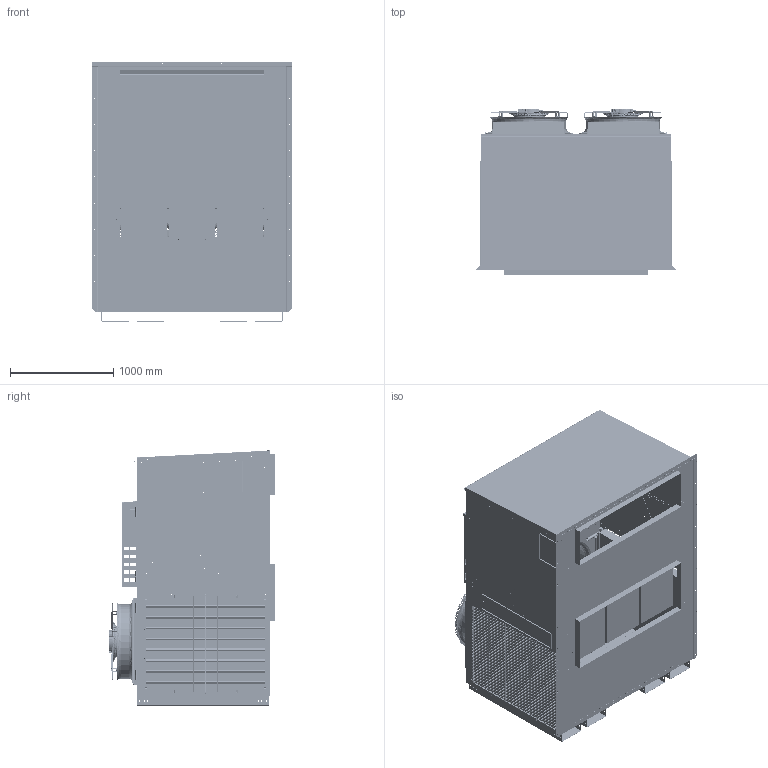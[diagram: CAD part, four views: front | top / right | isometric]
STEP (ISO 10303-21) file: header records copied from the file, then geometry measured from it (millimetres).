
FILE_DESCRIPTION (( 'STEP AP214' ), '1' );
FILE_NAME ('CFA3 240 STD ECONO - C2.STEP', '2023-06-30T12:45:20', ( '' ), ( '' ), 'SwSTEP 2.0', 'SolidWorks 2022', '' );
FILE_SCHEMA (( 'AUTOMOTIVE_DESIGN' ));
Length unit declared in the file: inch
Products named in the file (65): 128141203; MD09525; Poron Sides M11333^MD11333; 90857 BASE; MD09558; MD11264; MD09452; 91039; MD09454; MD11265_MD11265; MD11247; CFA3 240 STD ECONO - C2; HOOD ASSEMBLY; 02146_FLEXIBLE; MD09450; 02146 RH BOTTOM; MD11334; 128142003; MD09505; SML10005X; 02145 LH BOTTOM; MD09561; SML11007X; MD11333_MD11333-IN; 60309; MD11265; 60310; 90857 LARGE LOOP; MD09518; ND03823; MD11335; 02145; MD11333; MD09500; 90857 SMALL LOOP; SML11008X; MD11264_MD11264; SML23037X; MD09457; MD11331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
Assembly tree (115 placements, depth 4):
  CFA3 240 STD ECONO - C2
    MD09441
    MD09449
    MD09450
    MD09452
    MD09453
    MD09454
    MD09457
    MD09499
    MD09500
    MD09503
    MD09504
    MD09505  x3
    MD09507
    MD09518  x4
    MD09525
    MD09526
    MD09541
    MD09558  x2
    MD09560-IN
      MD09560
      ND03344
      92299^MD09560-IN
    MD09561  x2
    MD11264_MD11264
      MD11264
    MD11265_MD11265
      MD11265
    HOOD ASSEMBLY  x2
      MD11247
      MD11248
      MD11249
      MD11331
      MD11333_MD11333-IN
        MD11333
        ND03823
        Poron Top Bottom M11333^MD11333  x2
        Poron Sides M11333^MD11333  x2
      MD11334
      MD11333_MD11333
        MD11333
        Poron Top Bottom M11333^MD11333  x2
        Poron Sides M11333^MD11333  x2
      MD11335
      92526
    02145  x4
      02145 LH BOTTOM
      02145 LH TOP
    02146_FLEXIBLE  x4
      02146 RH BOTTOM
      02146 RH TOP
    60309
      128142003
    60310
      128141203
    81257  x3
    90857  x2
      90857 BASE
      90857 SMALL LOOP
      90857 LARGE LOOP
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Bounding box: 1930.4 x 1616.53 x 2510.94 mm (x, y, z)
Volume: 269132809.7 mm3; surface area: 91458932.2 mm2
Topology: 688 solids, 980 shells, 33509 faces, 84810 edges, 53183 vertices
Faces by surface type: plane 12583, cylinder 12160, bspline 4508, cone 4104, torus 82, sphere 72
Entity records: 973295 total; most frequent: CARTESIAN_POINT 253642, DIRECTION 107529, ORIENTED_EDGE 107174, EDGE_CURVE 53622, AXIS2_PLACEMENT_3D 40982, VERTEX_POINT 33524, EDGE_LOOP 27175, VECTOR 25565
